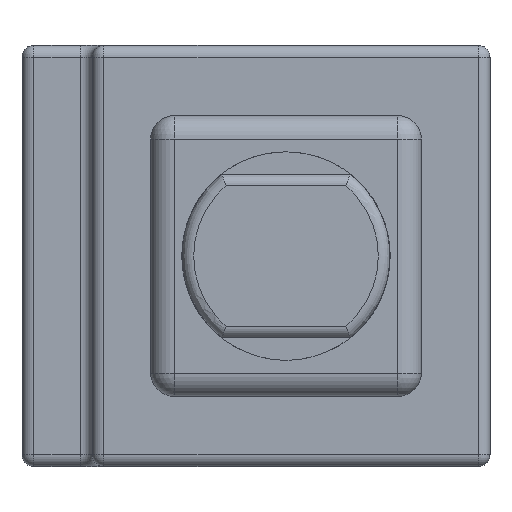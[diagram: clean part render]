
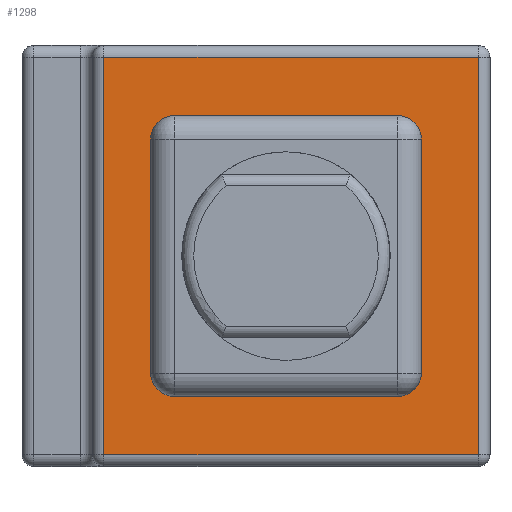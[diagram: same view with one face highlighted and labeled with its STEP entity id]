
A CAD part, left-side view. The second image highlights one B-rep face of the part: STEP entity #1298.
In plain terms, the highlighted planar face has unit normal (-1, 0, 0).
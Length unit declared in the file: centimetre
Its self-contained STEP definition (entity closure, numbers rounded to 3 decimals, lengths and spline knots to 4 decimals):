
#419=VERTEX_POINT('',#4981);
#420=VERTEX_POINT('',#4982);
#424=VERTEX_POINT('',#4994);
#425=VERTEX_POINT('',#4995);
#429=VERTEX_POINT('',#5010);
#430=VERTEX_POINT('',#5011);
#434=VERTEX_POINT('',#5023);
#435=VERTEX_POINT('',#5024);
#484=VERTEX_POINT('',#5627);
#487=VERTEX_POINT('',#5637);
#491=VERTEX_POINT('',#5645);
#493=VERTEX_POINT('',#5654);
#523=EDGE_CURVE('',#419,#420,#1397,.F.);
#529=EDGE_CURVE('',#424,#425,#1401,.F.);
#537=EDGE_CURVE('',#429,#430,#1405,.F.);
#543=EDGE_CURVE('',#434,#435,#1409,.F.);
#552=EDGE_CURVE('',#419,#425,#2021,.T.);
#553=EDGE_CURVE('',#424,#435,#2022,.T.);
#554=EDGE_CURVE('',#434,#430,#2023,.T.);
#555=EDGE_CURVE('',#429,#420,#2024,.T.);
#645=EDGE_CURVE('',#493,#491,#2054,.T.);
#649=EDGE_CURVE('',#487,#493,#2058,.T.);
#652=EDGE_CURVE('',#491,#484,#2061,.T.);
#655=EDGE_CURVE('',#484,#487,#2064,.T.);
#995=ORIENTED_EDGE('',*,*,#555,.T.);
#996=ORIENTED_EDGE('',*,*,#523,.F.);
#997=ORIENTED_EDGE('',*,*,#552,.T.);
#998=ORIENTED_EDGE('',*,*,#529,.F.);
#999=ORIENTED_EDGE('',*,*,#553,.T.);
#1000=ORIENTED_EDGE('',*,*,#543,.F.);
#1001=ORIENTED_EDGE('',*,*,#554,.T.);
#1002=ORIENTED_EDGE('',*,*,#537,.F.);
#1003=ORIENTED_EDGE('',*,*,#645,.F.);
#1004=ORIENTED_EDGE('',*,*,#649,.F.);
#1005=ORIENTED_EDGE('',*,*,#655,.F.);
#1006=ORIENTED_EDGE('',*,*,#652,.F.);
#1112=EDGE_LOOP('',(#995,#996,#997,#998,#999,#1000,#1001,#1002));
#1113=EDGE_LOOP('',(#1003,#1004,#1005,#1006));
#1210=FACE_BOUND('',#1112,.T.);
#1211=FACE_BOUND('',#1113,.T.);
#1298=ADVANCED_FACE('',(#1210,#1211),#3797,.T.);
#1397=CIRCLE('',#3359,0.1);
#1401=CIRCLE('',#3365,0.1);
#1405=CIRCLE('',#3372,0.1);
#1409=CIRCLE('',#3378,0.1);
#2021=LINE('',#5037,#3707);
#2022=LINE('',#5039,#3708);
#2023=LINE('',#5042,#3709);
#2024=LINE('',#5044,#3710);
#2054=LINE('',#5660,#3740);
#2058=LINE('',#5666,#3744);
#2061=LINE('',#5670,#3747);
#2064=LINE('',#5675,#3750);
#3359=AXIS2_PLACEMENT_3D('',#4980,#4158,#4159);
#3365=AXIS2_PLACEMENT_3D('',#4993,#4172,#4173);
#3372=AXIS2_PLACEMENT_3D('',#5009,#4190,#4191);
#3378=AXIS2_PLACEMENT_3D('',#5022,#4204,#4205);
#3498=AXIS2_PLACEMENT_3D('',#5702,#4492,$);
#3707=VECTOR('',#4221,1.);
#3708=VECTOR('',#4223,1.);
#3709=VECTOR('',#4226,1.);
#3710=VECTOR('',#4228,1.);
#3740=VECTOR('',#4437,1.);
#3744=VECTOR('',#4445,1.);
#3747=VECTOR('',#4450,1.);
#3750=VECTOR('',#4457,1.);
#3797=PLANE('',#3498);
#4158=DIRECTION('',(1.,0.,0.));
#4159=DIRECTION('',(0.,0.071,-0.071));
#4172=DIRECTION('',(1.,0.,0.));
#4173=DIRECTION('',(0.,0.071,0.071));
#4190=DIRECTION('',(1.,0.,0.));
#4191=DIRECTION('',(0.,-0.071,-0.071));
#4204=DIRECTION('',(1.,0.,0.));
#4205=DIRECTION('',(0.,-0.071,0.071));
#4221=DIRECTION('',(0.,0.,1.));
#4223=DIRECTION('',(0.,-1.,0.));
#4226=DIRECTION('',(0.,0.,-1.));
#4228=DIRECTION('',(0.,1.,0.));
#4437=DIRECTION('',(0.,1.,0.));
#4445=DIRECTION('',(0.,0.,-1.));
#4450=DIRECTION('',(0.,0.,1.));
#4457=DIRECTION('',(0.,-1.,0.));
#4492=DIRECTION('',(-1.,0.,0.));
#4980=CARTESIAN_POINT('',(-5.3,1.35,0.4));
#4981=CARTESIAN_POINT('',(-5.3,1.45,0.4));
#4982=CARTESIAN_POINT('',(-5.3,1.35,0.3));
#4993=CARTESIAN_POINT('',(-5.3,1.35,1.4));
#4994=CARTESIAN_POINT('',(-5.3,1.35,1.5));
#4995=CARTESIAN_POINT('',(-5.3,1.45,1.4));
#5009=CARTESIAN_POINT('',(-5.3,0.3937,0.4));
#5010=CARTESIAN_POINT('',(-5.3,0.3937,0.3));
#5011=CARTESIAN_POINT('',(-5.3,0.2937,0.4));
#5022=CARTESIAN_POINT('',(-5.3,0.3937,1.4));
#5023=CARTESIAN_POINT('',(-5.3,0.2937,1.4));
#5024=CARTESIAN_POINT('',(-5.3,0.3937,1.5));
#5037=CARTESIAN_POINT('',(-5.3,1.45,0.45));
#5039=CARTESIAN_POINT('',(-5.3,0.8609,1.5));
#5042=CARTESIAN_POINT('',(-5.3,0.2937,0.45));
#5044=CARTESIAN_POINT('',(-5.3,0.8609,0.3));
#5627=CARTESIAN_POINT('',(-5.3,1.65,1.75));
#5637=CARTESIAN_POINT('',(-5.3,0.05,1.75));
#5645=CARTESIAN_POINT('',(-5.3,1.65,0.05));
#5654=CARTESIAN_POINT('',(-5.3,0.05,0.05));
#5660=CARTESIAN_POINT('',(-5.3,0.9158,0.05));
#5666=CARTESIAN_POINT('',(-5.3,0.05,0.));
#5670=CARTESIAN_POINT('',(-5.3,1.65,0.));
#5675=CARTESIAN_POINT('',(-5.3,0.9158,1.75));
#5702=CARTESIAN_POINT('',(-5.3,0.85,0.));
